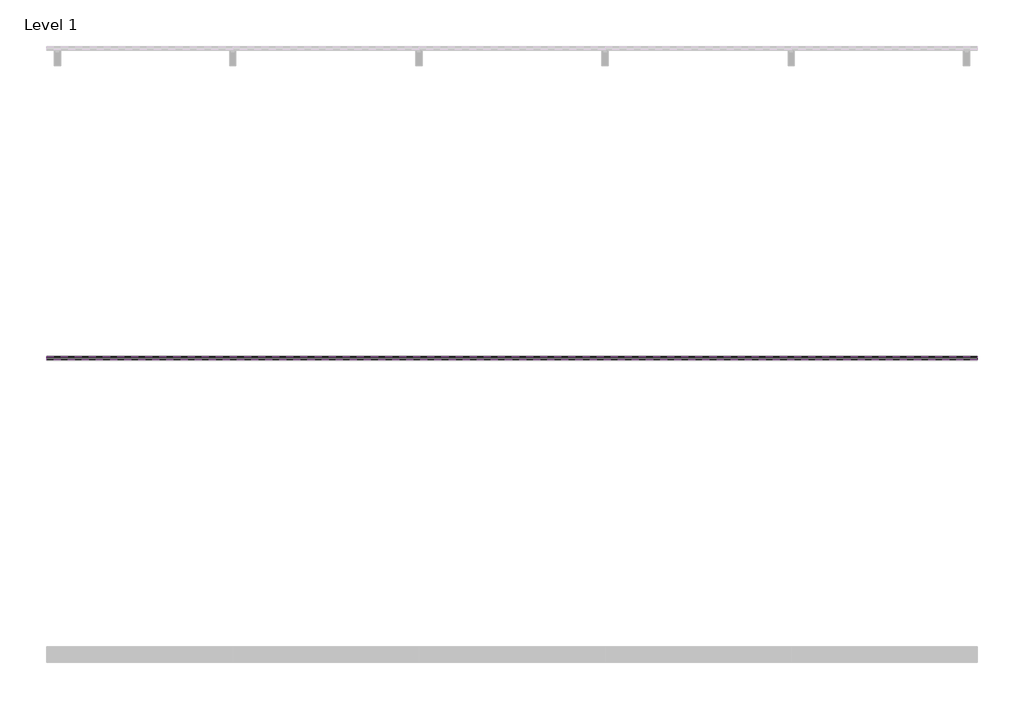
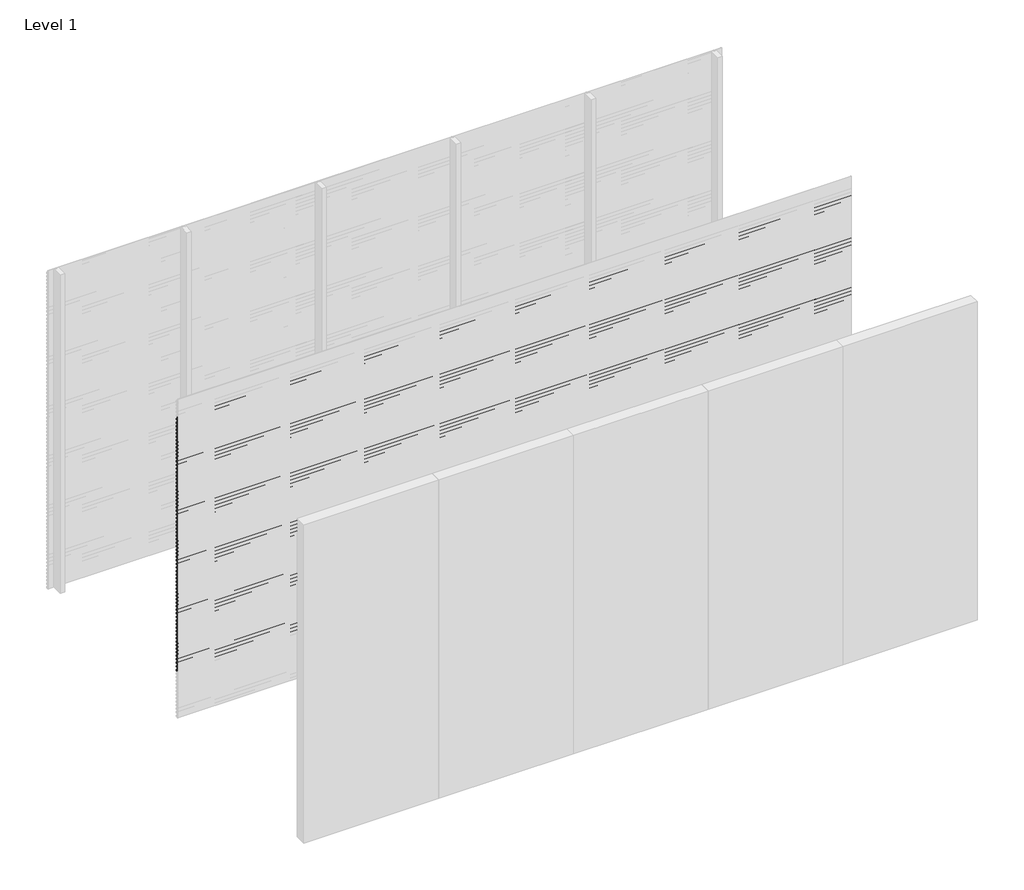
# One storey, part 26 of 77: 72 proxies.
"""IFC4 building model written with IfcOpenShell, lengths in millimetres."""

from ifc_helpers import new_model, si_unit, frame, origin, place, context, project, spatial, polyline, outline, extrude, element, save

model = new_model("IFC4")

# Units and contexts
model_context = context("Model", 3, world=origin())
ifc_project = project(units=[si_unit("LENGTHUNIT", "METRE", prefix="MILLI")], contexts=[model_context])

# Site, building, storey
site = spatial("IfcSite", under=ifc_project)
building = spatial("IfcBuilding", under=site)
storey = spatial("IfcBuildingStorey", under=building, Name="Level 1", Elevation=0.0)

# Proxies
placement = place(None, origin())
element("IfcBuildingElementProxy", 1, Name="Wall Sweeps", at=placement, inside=storey, context=model_context, shape_type="SweptSolid", body=[
    extrude(outline(polyline([(-37978.6, 2806.0359887), (-37998.0, 2817.2366691), (-37998.0, 2830.5), (-37997.0, 2830.5), (-37997.0, 2817.8191057), (-37977.6, 2806.6185105), (-37977.6, 2793.0185105), (-37978.6, 2794.5953129), (-37978.6, 2800.4032062), (-37995.9773817, 2792.3), (-37996.4, 2793.2063078), (-37978.6, 2801.5065841), (-37978.6, 2806.0359887)])), frame((0.0, 0.0, 0.0), z_axis=(1.0, 0.0, 0.0), x_axis=(0.0, 1.0, 0.0)), (0.0, 0.0, 1.0), 6000.0),
])
element("IfcBuildingElementProxy", 2, Name="Wall Sweeps", at=placement, inside=storey, context=model_context, shape_type="SweptSolid", body=[
    extrude(outline(polyline([(-37978.6, 2772.7359887), (-37998.0, 2783.9366691), (-37998.0, 2797.2), (-37997.0, 2797.2), (-37997.0, 2784.5191057), (-37977.6, 2773.3185105), (-37977.6, 2759.7185105), (-37978.6, 2761.2953129), (-37978.6, 2767.1032062), (-37995.9773817, 2759.0), (-37996.4, 2759.9063078), (-37978.6, 2768.2065841), (-37978.6, 2772.7359887)])), frame((0.0, 0.0, 0.0), z_axis=(1.0, 0.0, 0.0), x_axis=(0.0, 1.0, 0.0)), (0.0, 0.0, 1.0), 6000.0),
])
element("IfcBuildingElementProxy", 3, Name="Wall Sweeps", at=placement, inside=storey, context=model_context, shape_type="SweptSolid", body=[
    extrude(outline(polyline([(-37978.6, 2739.4359887), (-37998.0, 2750.6366691), (-37998.0, 2763.9), (-37997.0, 2763.9), (-37997.0, 2751.2191057), (-37977.6, 2740.0185105), (-37977.6, 2726.4185105), (-37978.6, 2727.9953129), (-37978.6, 2733.8032062), (-37995.9773817, 2725.7), (-37996.4, 2726.6063078), (-37978.6, 2734.9065841), (-37978.6, 2739.4359887)])), frame((0.0, 0.0, 0.0), z_axis=(1.0, 0.0, 0.0), x_axis=(0.0, 1.0, 0.0)), (0.0, 0.0, 1.0), 6000.0),
])
element("IfcBuildingElementProxy", 4, Name="Wall Sweeps", at=placement, inside=storey, context=model_context, shape_type="SweptSolid", body=[
    extrude(outline(polyline([(-37978.6, 2706.1359887), (-37998.0, 2717.3366691), (-37998.0, 2730.6), (-37997.0, 2730.6), (-37997.0, 2717.9191057), (-37977.6, 2706.7185105), (-37977.6, 2693.1185105), (-37978.6, 2694.6953129), (-37978.6, 2700.5032062), (-37995.9773817, 2692.4), (-37996.4, 2693.3063078), (-37978.6, 2701.6065841), (-37978.6, 2706.1359887)])), frame((0.0, 0.0, 0.0), z_axis=(1.0, 0.0, 0.0), x_axis=(0.0, 1.0, 0.0)), (0.0, 0.0, 1.0), 6000.0),
])
element("IfcBuildingElementProxy", 5, Name="Wall Sweeps", at=placement, inside=storey, context=model_context, shape_type="SweptSolid", body=[
    extrude(outline(polyline([(-37978.6, 2672.8359887), (-37998.0, 2684.0366691), (-37998.0, 2697.3), (-37997.0, 2697.3), (-37997.0, 2684.6191057), (-37977.6, 2673.4185105), (-37977.6, 2659.8185105), (-37978.6, 2661.3953129), (-37978.6, 2667.2032062), (-37995.9773817, 2659.1), (-37996.4, 2660.0063078), (-37978.6, 2668.3065841), (-37978.6, 2672.8359887)])), frame((0.0, 0.0, 0.0), z_axis=(1.0, 0.0, 0.0), x_axis=(0.0, 1.0, 0.0)), (0.0, 0.0, 1.0), 6000.0),
])
element("IfcBuildingElementProxy", 6, Name="Wall Sweeps", at=placement, inside=storey, context=model_context, shape_type="SweptSolid", body=[
    extrude(outline(polyline([(-37978.6, 2639.5359887), (-37998.0, 2650.7366691), (-37998.0, 2664.0), (-37997.0, 2664.0), (-37997.0, 2651.3191057), (-37977.6, 2640.1185105), (-37977.6, 2626.5185105), (-37978.6, 2628.0953129), (-37978.6, 2633.9032062), (-37995.9773817, 2625.8), (-37996.4, 2626.7063078), (-37978.6, 2635.0065841), (-37978.6, 2639.5359887)])), frame((0.0, 0.0, 0.0), z_axis=(1.0, 0.0, 0.0), x_axis=(0.0, 1.0, 0.0)), (0.0, 0.0, 1.0), 6000.0),
])
element("IfcBuildingElementProxy", 7, Name="Wall Sweeps", at=placement, inside=storey, context=model_context, shape_type="SweptSolid", body=[
    extrude(outline(polyline([(-37978.6, 2606.2359887), (-37998.0, 2617.4366691), (-37998.0, 2630.7), (-37997.0, 2630.7), (-37997.0, 2618.0191057), (-37977.6, 2606.8185105), (-37977.6, 2593.2185105), (-37978.6, 2594.7953129), (-37978.6, 2600.6032062), (-37995.9773817, 2592.5), (-37996.4, 2593.4063078), (-37978.6, 2601.7065841), (-37978.6, 2606.2359887)])), frame((0.0, 0.0, 0.0), z_axis=(1.0, 0.0, 0.0), x_axis=(0.0, 1.0, 0.0)), (0.0, 0.0, 1.0), 6000.0),
])
element("IfcBuildingElementProxy", 8, Name="Wall Sweeps", at=placement, inside=storey, context=model_context, shape_type="SweptSolid", body=[
    extrude(outline(polyline([(-37978.6, 2572.9359887), (-37998.0, 2584.1366691), (-37998.0, 2597.4), (-37997.0, 2597.4), (-37997.0, 2584.7191057), (-37977.6, 2573.5185105), (-37977.6, 2559.9185105), (-37978.6, 2561.4953129), (-37978.6, 2567.3032062), (-37995.9773817, 2559.2), (-37996.4, 2560.1063078), (-37978.6, 2568.4065841), (-37978.6, 2572.9359887)])), frame((0.0, 0.0, 0.0), z_axis=(1.0, 0.0, 0.0), x_axis=(0.0, 1.0, 0.0)), (0.0, 0.0, 1.0), 6000.0),
])
element("IfcBuildingElementProxy", 9, Name="Wall Sweeps", at=placement, inside=storey, context=model_context, shape_type="SweptSolid", body=[
    extrude(outline(polyline([(-37978.6, 2539.6359887), (-37998.0, 2550.8366691), (-37998.0, 2564.1), (-37997.0, 2564.1), (-37997.0, 2551.4191057), (-37977.6, 2540.2185105), (-37977.6, 2526.6185105), (-37978.6, 2528.1953129), (-37978.6, 2534.0032062), (-37995.9773817, 2525.9), (-37996.4, 2526.8063078), (-37978.6, 2535.1065841), (-37978.6, 2539.6359887)])), frame((0.0, 0.0, 0.0), z_axis=(1.0, 0.0, 0.0), x_axis=(0.0, 1.0, 0.0)), (0.0, 0.0, 1.0), 6000.0),
])
element("IfcBuildingElementProxy", 10, Name="Wall Sweeps", at=placement, inside=storey, context=model_context, shape_type="SweptSolid", body=[
    extrude(outline(polyline([(-37978.6, 2506.3359887), (-37998.0, 2517.5366691), (-37998.0, 2530.8), (-37997.0, 2530.8), (-37997.0, 2518.1191057), (-37977.6, 2506.9185105), (-37977.6, 2493.3185105), (-37978.6, 2494.8953129), (-37978.6, 2500.7032062), (-37995.9773817, 2492.6), (-37996.4, 2493.5063078), (-37978.6, 2501.8065841), (-37978.6, 2506.3359887)])), frame((0.0, 0.0, 0.0), z_axis=(1.0, 0.0, 0.0), x_axis=(0.0, 1.0, 0.0)), (0.0, 0.0, 1.0), 6000.0),
])
element("IfcBuildingElementProxy", 11, Name="Wall Sweeps", at=placement, inside=storey, context=model_context, shape_type="SweptSolid", body=[
    extrude(outline(polyline([(-37978.6, 2473.0359887), (-37998.0, 2484.2366691), (-37998.0, 2497.5), (-37997.0, 2497.5), (-37997.0, 2484.8191057), (-37977.6, 2473.6185105), (-37977.6, 2460.0185105), (-37978.6, 2461.5953129), (-37978.6, 2467.4032062), (-37995.9773817, 2459.3), (-37996.4, 2460.2063078), (-37978.6, 2468.5065841), (-37978.6, 2473.0359887)])), frame((0.0, 0.0, 0.0), z_axis=(1.0, 0.0, 0.0), x_axis=(0.0, 1.0, 0.0)), (0.0, 0.0, 1.0), 6000.0),
])
element("IfcBuildingElementProxy", 12, Name="Wall Sweeps", at=placement, inside=storey, context=model_context, shape_type="SweptSolid", body=[
    extrude(outline(polyline([(-37978.6, 2439.7359887), (-37998.0, 2450.9366691), (-37998.0, 2464.2), (-37997.0, 2464.2), (-37997.0, 2451.5191057), (-37977.6, 2440.3185105), (-37977.6, 2426.7185105), (-37978.6, 2428.2953129), (-37978.6, 2434.1032062), (-37995.9773817, 2426.0), (-37996.4, 2426.9063078), (-37978.6, 2435.2065841), (-37978.6, 2439.7359887)])), frame((0.0, 0.0, 0.0), z_axis=(1.0, 0.0, 0.0), x_axis=(0.0, 1.0, 0.0)), (0.0, 0.0, 1.0), 6000.0),
])
element("IfcBuildingElementProxy", 13, Name="Wall Sweeps", at=placement, inside=storey, context=model_context, shape_type="SweptSolid", body=[
    extrude(outline(polyline([(-37978.6, 2406.4359887), (-37998.0, 2417.6366691), (-37998.0, 2430.9), (-37997.0, 2430.9), (-37997.0, 2418.2191057), (-37977.6, 2407.0185105), (-37977.6, 2393.4185105), (-37978.6, 2394.9953129), (-37978.6, 2400.8032062), (-37995.9773817, 2392.7), (-37996.4, 2393.6063078), (-37978.6, 2401.9065841), (-37978.6, 2406.4359887)])), frame((0.0, 0.0, 0.0), z_axis=(1.0, 0.0, 0.0), x_axis=(0.0, 1.0, 0.0)), (0.0, 0.0, 1.0), 6000.0),
])
element("IfcBuildingElementProxy", 14, Name="Wall Sweeps", at=placement, inside=storey, context=model_context, shape_type="SweptSolid", body=[
    extrude(outline(polyline([(-37978.6, 2373.1359887), (-37998.0, 2384.3366691), (-37998.0, 2397.6), (-37997.0, 2397.6), (-37997.0, 2384.9191057), (-37977.6, 2373.7185105), (-37977.6, 2360.1185105), (-37978.6, 2361.6953129), (-37978.6, 2367.5032062), (-37995.9773817, 2359.4), (-37996.4, 2360.3063078), (-37978.6, 2368.6065841), (-37978.6, 2373.1359887)])), frame((0.0, 0.0, 0.0), z_axis=(1.0, 0.0, 0.0), x_axis=(0.0, 1.0, 0.0)), (0.0, 0.0, 1.0), 6000.0),
])
element("IfcBuildingElementProxy", 15, Name="Wall Sweeps", at=placement, inside=storey, context=model_context, shape_type="SweptSolid", body=[
    extrude(outline(polyline([(-37978.6, 2339.8359887), (-37998.0, 2351.0366691), (-37998.0, 2364.3), (-37997.0, 2364.3), (-37997.0, 2351.6191057), (-37977.6, 2340.4185105), (-37977.6, 2326.8185105), (-37978.6, 2328.3953129), (-37978.6, 2334.2032062), (-37995.9773817, 2326.1), (-37996.4, 2327.0063078), (-37978.6, 2335.3065841), (-37978.6, 2339.8359887)])), frame((0.0, 0.0, 0.0), z_axis=(1.0, 0.0, 0.0), x_axis=(0.0, 1.0, 0.0)), (0.0, 0.0, 1.0), 6000.0),
])
element("IfcBuildingElementProxy", 16, Name="Wall Sweeps", at=placement, inside=storey, context=model_context, shape_type="SweptSolid", body=[
    extrude(outline(polyline([(-37978.6, 2306.5359887), (-37998.0, 2317.7366691), (-37998.0, 2331.0), (-37997.0, 2331.0), (-37997.0, 2318.3191057), (-37977.6, 2307.1185105), (-37977.6, 2293.5185105), (-37978.6, 2295.0953129), (-37978.6, 2300.9032062), (-37995.9773817, 2292.8), (-37996.4, 2293.7063078), (-37978.6, 2302.0065841), (-37978.6, 2306.5359887)])), frame((0.0, 0.0, 0.0), z_axis=(1.0, 0.0, 0.0), x_axis=(0.0, 1.0, 0.0)), (0.0, 0.0, 1.0), 6000.0),
])
element("IfcBuildingElementProxy", 17, Name="Wall Sweeps", at=placement, inside=storey, context=model_context, shape_type="SweptSolid", body=[
    extrude(outline(polyline([(-37978.6, 2273.2359887), (-37998.0, 2284.4366691), (-37998.0, 2297.7), (-37997.0, 2297.7), (-37997.0, 2285.0191057), (-37977.6, 2273.8185105), (-37977.6, 2260.2185105), (-37978.6, 2261.7953129), (-37978.6, 2267.6032062), (-37995.9773817, 2259.5), (-37996.4, 2260.4063078), (-37978.6, 2268.7065841), (-37978.6, 2273.2359887)])), frame((0.0, 0.0, 0.0), z_axis=(1.0, 0.0, 0.0), x_axis=(0.0, 1.0, 0.0)), (0.0, 0.0, 1.0), 6000.0),
])
element("IfcBuildingElementProxy", 18, Name="Wall Sweeps", at=placement, inside=storey, context=model_context, shape_type="SweptSolid", body=[
    extrude(outline(polyline([(-37978.6, 2239.9359887), (-37998.0, 2251.1366691), (-37998.0, 2264.4), (-37997.0, 2264.4), (-37997.0, 2251.7191057), (-37977.6, 2240.5185105), (-37977.6, 2226.9185105), (-37978.6, 2228.4953129), (-37978.6, 2234.3032062), (-37995.9773817, 2226.2), (-37996.4, 2227.1063078), (-37978.6, 2235.4065841), (-37978.6, 2239.9359887)])), frame((0.0, 0.0, 0.0), z_axis=(1.0, 0.0, 0.0), x_axis=(0.0, 1.0, 0.0)), (0.0, 0.0, 1.0), 6000.0),
])
element("IfcBuildingElementProxy", 19, Name="Wall Sweeps", at=placement, inside=storey, context=model_context, shape_type="SweptSolid", body=[
    extrude(outline(polyline([(-37978.6, 2206.6359887), (-37998.0, 2217.8366691), (-37998.0, 2231.1), (-37997.0, 2231.1), (-37997.0, 2218.4191057), (-37977.6, 2207.2185105), (-37977.6, 2193.6185105), (-37978.6, 2195.1953129), (-37978.6, 2201.0032062), (-37995.9773817, 2192.9), (-37996.4, 2193.8063078), (-37978.6, 2202.1065841), (-37978.6, 2206.6359887)])), frame((0.0, 0.0, 0.0), z_axis=(1.0, 0.0, 0.0), x_axis=(0.0, 1.0, 0.0)), (0.0, 0.0, 1.0), 6000.0),
])
element("IfcBuildingElementProxy", 20, Name="Wall Sweeps", at=placement, inside=storey, context=model_context, shape_type="SweptSolid", body=[
    extrude(outline(polyline([(-37978.6, 2173.3359887), (-37998.0, 2184.5366691), (-37998.0, 2197.8), (-37997.0, 2197.8), (-37997.0, 2185.1191057), (-37977.6, 2173.9185105), (-37977.6, 2160.3185105), (-37978.6, 2161.8953129), (-37978.6, 2167.7032062), (-37995.9773817, 2159.6), (-37996.4, 2160.5063078), (-37978.6, 2168.8065841), (-37978.6, 2173.3359887)])), frame((0.0, 0.0, 0.0), z_axis=(1.0, 0.0, 0.0), x_axis=(0.0, 1.0, 0.0)), (0.0, 0.0, 1.0), 6000.0),
])
element("IfcBuildingElementProxy", 21, Name="Wall Sweeps", at=placement, inside=storey, context=model_context, shape_type="SweptSolid", body=[
    extrude(outline(polyline([(-37978.6, 2140.0359887), (-37998.0, 2151.2366691), (-37998.0, 2164.5), (-37997.0, 2164.5), (-37997.0, 2151.8191057), (-37977.6, 2140.6185105), (-37977.6, 2127.0185105), (-37978.6, 2128.5953129), (-37978.6, 2134.4032062), (-37995.9773817, 2126.3), (-37996.4, 2127.2063078), (-37978.6, 2135.5065841), (-37978.6, 2140.0359887)])), frame((0.0, 0.0, 0.0), z_axis=(1.0, 0.0, 0.0), x_axis=(0.0, 1.0, 0.0)), (0.0, 0.0, 1.0), 6000.0),
])
element("IfcBuildingElementProxy", 22, Name="Wall Sweeps", at=placement, inside=storey, context=model_context, shape_type="SweptSolid", body=[
    extrude(outline(polyline([(-37978.6, 2106.7359887), (-37998.0, 2117.9366691), (-37998.0, 2131.2), (-37997.0, 2131.2), (-37997.0, 2118.5191057), (-37977.6, 2107.3185105), (-37977.6, 2093.7185105), (-37978.6, 2095.2953129), (-37978.6, 2101.1032062), (-37995.9773817, 2093.0), (-37996.4, 2093.9063078), (-37978.6, 2102.2065841), (-37978.6, 2106.7359887)])), frame((0.0, 0.0, 0.0), z_axis=(1.0, 0.0, 0.0), x_axis=(0.0, 1.0, 0.0)), (0.0, 0.0, 1.0), 6000.0),
])
element("IfcBuildingElementProxy", 23, Name="Wall Sweeps", at=placement, inside=storey, context=model_context, shape_type="SweptSolid", body=[
    extrude(outline(polyline([(-37978.6, 2073.4359887), (-37998.0, 2084.6366691), (-37998.0, 2097.9), (-37997.0, 2097.9), (-37997.0, 2085.2191057), (-37977.6, 2074.0185105), (-37977.6, 2060.4185105), (-37978.6, 2061.9953129), (-37978.6, 2067.8032062), (-37995.9773817, 2059.7), (-37996.4, 2060.6063078), (-37978.6, 2068.9065841), (-37978.6, 2073.4359887)])), frame((0.0, 0.0, 0.0), z_axis=(1.0, 0.0, 0.0), x_axis=(0.0, 1.0, 0.0)), (0.0, 0.0, 1.0), 6000.0),
])
element("IfcBuildingElementProxy", 24, Name="Wall Sweeps", at=placement, inside=storey, context=model_context, shape_type="SweptSolid", body=[
    extrude(outline(polyline([(-37978.6, 2040.1359887), (-37998.0, 2051.3366691), (-37998.0, 2064.6), (-37997.0, 2064.6), (-37997.0, 2051.9191057), (-37977.6, 2040.7185105), (-37977.6, 2027.1185105), (-37978.6, 2028.6953129), (-37978.6, 2034.5032062), (-37995.9773817, 2026.4), (-37996.4, 2027.3063078), (-37978.6, 2035.6065841), (-37978.6, 2040.1359887)])), frame((0.0, 0.0, 0.0), z_axis=(1.0, 0.0, 0.0), x_axis=(0.0, 1.0, 0.0)), (0.0, 0.0, 1.0), 6000.0),
])
element("IfcBuildingElementProxy", 25, Name="Wall Sweeps", at=placement, inside=storey, context=model_context, shape_type="SweptSolid", body=[
    extrude(outline(polyline([(-37978.6, 2006.8359887), (-37998.0, 2018.0366691), (-37998.0, 2031.3), (-37997.0, 2031.3), (-37997.0, 2018.6191057), (-37977.6, 2007.4185105), (-37977.6, 1993.8185105), (-37978.6, 1995.3953129), (-37978.6, 2001.2032062), (-37995.9773817, 1993.1), (-37996.4, 1994.0063078), (-37978.6, 2002.3065841), (-37978.6, 2006.8359887)])), frame((0.0, 0.0, 0.0), z_axis=(1.0, 0.0, 0.0), x_axis=(0.0, 1.0, 0.0)), (0.0, 0.0, 1.0), 6000.0),
])
element("IfcBuildingElementProxy", 26, Name="Wall Sweeps", at=placement, inside=storey, context=model_context, shape_type="SweptSolid", body=[
    extrude(outline(polyline([(-37978.6, 1973.5359887), (-37998.0, 1984.7366691), (-37998.0, 1998.0), (-37997.0, 1998.0), (-37997.0, 1985.3191057), (-37977.6, 1974.1185105), (-37977.6, 1960.5185105), (-37978.6, 1962.0953129), (-37978.6, 1967.9032062), (-37995.9773817, 1959.8), (-37996.4, 1960.7063078), (-37978.6, 1969.0065841), (-37978.6, 1973.5359887)])), frame((0.0, 0.0, 0.0), z_axis=(1.0, 0.0, 0.0), x_axis=(0.0, 1.0, 0.0)), (0.0, 0.0, 1.0), 6000.0),
])
element("IfcBuildingElementProxy", 27, Name="Wall Sweeps", at=placement, inside=storey, context=model_context, shape_type="SweptSolid", body=[
    extrude(outline(polyline([(-37978.6, 1940.2359887), (-37998.0, 1951.4366691), (-37998.0, 1964.7), (-37997.0, 1964.7), (-37997.0, 1952.0191057), (-37977.6, 1940.8185105), (-37977.6, 1927.2185105), (-37978.6, 1928.7953129), (-37978.6, 1934.6032062), (-37995.9773817, 1926.5), (-37996.4, 1927.4063078), (-37978.6, 1935.7065841), (-37978.6, 1940.2359887)])), frame((0.0, 0.0, 0.0), z_axis=(1.0, 0.0, 0.0), x_axis=(0.0, 1.0, 0.0)), (0.0, 0.0, 1.0), 6000.0),
])
element("IfcBuildingElementProxy", 28, Name="Wall Sweeps", at=placement, inside=storey, context=model_context, shape_type="SweptSolid", body=[
    extrude(outline(polyline([(-37978.6, 1906.9359887), (-37998.0, 1918.1366691), (-37998.0, 1931.4), (-37997.0, 1931.4), (-37997.0, 1918.7191057), (-37977.6, 1907.5185105), (-37977.6, 1893.9185105), (-37978.6, 1895.4953129), (-37978.6, 1901.3032062), (-37995.9773817, 1893.2), (-37996.4, 1894.1063078), (-37978.6, 1902.4065841), (-37978.6, 1906.9359887)])), frame((0.0, 0.0, 0.0), z_axis=(1.0, 0.0, 0.0), x_axis=(0.0, 1.0, 0.0)), (0.0, 0.0, 1.0), 6000.0),
])
element("IfcBuildingElementProxy", 29, Name="Wall Sweeps", at=placement, inside=storey, context=model_context, shape_type="SweptSolid", body=[
    extrude(outline(polyline([(-37978.6, 1873.6359887), (-37998.0, 1884.8366691), (-37998.0, 1898.1), (-37997.0, 1898.1), (-37997.0, 1885.4191057), (-37977.6, 1874.2185105), (-37977.6, 1860.6185105), (-37978.6, 1862.1953129), (-37978.6, 1868.0032062), (-37995.9773817, 1859.9), (-37996.4, 1860.8063078), (-37978.6, 1869.1065841), (-37978.6, 1873.6359887)])), frame((0.0, 0.0, 0.0), z_axis=(1.0, 0.0, 0.0), x_axis=(0.0, 1.0, 0.0)), (0.0, 0.0, 1.0), 6000.0),
])
element("IfcBuildingElementProxy", 30, Name="Wall Sweeps", at=placement, inside=storey, context=model_context, shape_type="SweptSolid", body=[
    extrude(outline(polyline([(-37978.6, 1840.3359887), (-37998.0, 1851.5366691), (-37998.0, 1864.8), (-37997.0, 1864.8), (-37997.0, 1852.1191057), (-37977.6, 1840.9185105), (-37977.6, 1827.3185105), (-37978.6, 1828.8953129), (-37978.6, 1834.7032062), (-37995.9773817, 1826.6), (-37996.4, 1827.5063078), (-37978.6, 1835.8065841), (-37978.6, 1840.3359887)])), frame((0.0, 0.0, 0.0), z_axis=(1.0, 0.0, 0.0), x_axis=(0.0, 1.0, 0.0)), (0.0, 0.0, 1.0), 6000.0),
])
element("IfcBuildingElementProxy", 31, Name="Wall Sweeps", at=placement, inside=storey, context=model_context, shape_type="SweptSolid", body=[
    extrude(outline(polyline([(-37978.6, 1807.0359887), (-37998.0, 1818.2366691), (-37998.0, 1831.5), (-37997.0, 1831.5), (-37997.0, 1818.8191057), (-37977.6, 1807.6185105), (-37977.6, 1794.0185105), (-37978.6, 1795.5953129), (-37978.6, 1801.4032062), (-37995.9773817, 1793.3), (-37996.4, 1794.2063078), (-37978.6, 1802.5065841), (-37978.6, 1807.0359887)])), frame((0.0, 0.0, 0.0), z_axis=(1.0, 0.0, 0.0), x_axis=(0.0, 1.0, 0.0)), (0.0, 0.0, 1.0), 6000.0),
])
element("IfcBuildingElementProxy", 32, Name="Wall Sweeps", at=placement, inside=storey, context=model_context, shape_type="SweptSolid", body=[
    extrude(outline(polyline([(-37978.6, 1773.7359887), (-37998.0, 1784.9366691), (-37998.0, 1798.2), (-37997.0, 1798.2), (-37997.0, 1785.5191057), (-37977.6, 1774.3185105), (-37977.6, 1760.7185105), (-37978.6, 1762.2953129), (-37978.6, 1768.1032062), (-37995.9773817, 1760.0), (-37996.4, 1760.9063078), (-37978.6, 1769.2065841), (-37978.6, 1773.7359887)])), frame((0.0, 0.0, 0.0), z_axis=(1.0, 0.0, 0.0), x_axis=(0.0, 1.0, 0.0)), (0.0, 0.0, 1.0), 6000.0),
])
element("IfcBuildingElementProxy", 33, Name="Wall Sweeps", at=placement, inside=storey, context=model_context, shape_type="SweptSolid", body=[
    extrude(outline(polyline([(-37978.6, 1740.4359887), (-37998.0, 1751.6366691), (-37998.0, 1764.9), (-37997.0, 1764.9), (-37997.0, 1752.2191057), (-37977.6, 1741.0185105), (-37977.6, 1727.4185105), (-37978.6, 1728.9953129), (-37978.6, 1734.8032062), (-37995.9773817, 1726.7), (-37996.4, 1727.6063078), (-37978.6, 1735.9065841), (-37978.6, 1740.4359887)])), frame((0.0, 0.0, 0.0), z_axis=(1.0, 0.0, 0.0), x_axis=(0.0, 1.0, 0.0)), (0.0, 0.0, 1.0), 6000.0),
])
element("IfcBuildingElementProxy", 34, Name="Wall Sweeps", at=placement, inside=storey, context=model_context, shape_type="SweptSolid", body=[
    extrude(outline(polyline([(-37978.6, 1707.1359887), (-37998.0, 1718.3366691), (-37998.0, 1731.6), (-37997.0, 1731.6), (-37997.0, 1718.9191057), (-37977.6, 1707.7185105), (-37977.6, 1694.1185105), (-37978.6, 1695.6953129), (-37978.6, 1701.5032062), (-37995.9773817, 1693.4), (-37996.4, 1694.3063078), (-37978.6, 1702.6065841), (-37978.6, 1707.1359887)])), frame((0.0, 0.0, 0.0), z_axis=(1.0, 0.0, 0.0), x_axis=(0.0, 1.0, 0.0)), (0.0, 0.0, 1.0), 6000.0),
])
element("IfcBuildingElementProxy", 35, Name="Wall Sweeps", at=placement, inside=storey, context=model_context, shape_type="SweptSolid", body=[
    extrude(outline(polyline([(-37978.6, 1673.8359887), (-37998.0, 1685.0366691), (-37998.0, 1698.3), (-37997.0, 1698.3), (-37997.0, 1685.6191057), (-37977.6, 1674.4185105), (-37977.6, 1660.8185105), (-37978.6, 1662.3953129), (-37978.6, 1668.2032062), (-37995.9773817, 1660.1), (-37996.4, 1661.0063078), (-37978.6, 1669.3065841), (-37978.6, 1673.8359887)])), frame((0.0, 0.0, 0.0), z_axis=(1.0, 0.0, 0.0), x_axis=(0.0, 1.0, 0.0)), (0.0, 0.0, 1.0), 6000.0),
])
element("IfcBuildingElementProxy", 36, Name="Wall Sweeps", at=placement, inside=storey, context=model_context, shape_type="SweptSolid", body=[
    extrude(outline(polyline([(-37978.6, 1640.5359887), (-37998.0, 1651.7366691), (-37998.0, 1665.0), (-37997.0, 1665.0), (-37997.0, 1652.3191057), (-37977.6, 1641.1185105), (-37977.6, 1627.5185105), (-37978.6, 1629.0953129), (-37978.6, 1634.9032062), (-37995.9773817, 1626.8), (-37996.4, 1627.7063078), (-37978.6, 1636.0065841), (-37978.6, 1640.5359887)])), frame((0.0, 0.0, 0.0), z_axis=(1.0, 0.0, 0.0), x_axis=(0.0, 1.0, 0.0)), (0.0, 0.0, 1.0), 6000.0),
])
element("IfcBuildingElementProxy", 37, Name="Wall Sweeps", at=placement, inside=storey, context=model_context, shape_type="SweptSolid", body=[
    extrude(outline(polyline([(-37978.6, 1607.2359887), (-37998.0, 1618.4366691), (-37998.0, 1631.7), (-37997.0, 1631.7), (-37997.0, 1619.0191057), (-37977.6, 1607.8185105), (-37977.6, 1594.2185105), (-37978.6, 1595.7953129), (-37978.6, 1601.6032062), (-37995.9773817, 1593.5), (-37996.4, 1594.4063078), (-37978.6, 1602.7065841), (-37978.6, 1607.2359887)])), frame((0.0, 0.0, 0.0), z_axis=(1.0, 0.0, 0.0), x_axis=(0.0, 1.0, 0.0)), (0.0, 0.0, 1.0), 6000.0),
])
element("IfcBuildingElementProxy", 38, Name="Wall Sweeps", at=placement, inside=storey, context=model_context, shape_type="SweptSolid", body=[
    extrude(outline(polyline([(-37978.6, 1573.9359887), (-37998.0, 1585.1366691), (-37998.0, 1598.4), (-37997.0, 1598.4), (-37997.0, 1585.7191057), (-37977.6, 1574.5185105), (-37977.6, 1560.9185105), (-37978.6, 1562.4953129), (-37978.6, 1568.3032062), (-37995.9773817, 1560.2), (-37996.4, 1561.1063078), (-37978.6, 1569.4065841), (-37978.6, 1573.9359887)])), frame((0.0, 0.0, 0.0), z_axis=(1.0, 0.0, 0.0), x_axis=(0.0, 1.0, 0.0)), (0.0, 0.0, 1.0), 6000.0),
])
element("IfcBuildingElementProxy", 39, Name="Wall Sweeps", at=placement, inside=storey, context=model_context, shape_type="SweptSolid", body=[
    extrude(outline(polyline([(-37978.6, 1540.6359887), (-37998.0, 1551.8366691), (-37998.0, 1565.1), (-37997.0, 1565.1), (-37997.0, 1552.4191057), (-37977.6, 1541.2185105), (-37977.6, 1527.6185105), (-37978.6, 1529.1953129), (-37978.6, 1535.0032062), (-37995.9773817, 1526.9), (-37996.4, 1527.8063078), (-37978.6, 1536.1065841), (-37978.6, 1540.6359887)])), frame((0.0, 0.0, 0.0), z_axis=(1.0, 0.0, 0.0), x_axis=(0.0, 1.0, 0.0)), (0.0, 0.0, 1.0), 6000.0),
])
element("IfcBuildingElementProxy", 40, Name="Wall Sweeps", at=placement, inside=storey, context=model_context, shape_type="SweptSolid", body=[
    extrude(outline(polyline([(-37978.6, 1507.3359887), (-37998.0, 1518.5366691), (-37998.0, 1531.8), (-37997.0, 1531.8), (-37997.0, 1519.1191057), (-37977.6, 1507.9185105), (-37977.6, 1494.3185105), (-37978.6, 1495.8953129), (-37978.6, 1501.7032062), (-37995.9773817, 1493.6), (-37996.4, 1494.5063078), (-37978.6, 1502.8065841), (-37978.6, 1507.3359887)])), frame((0.0, 0.0, 0.0), z_axis=(1.0, 0.0, 0.0), x_axis=(0.0, 1.0, 0.0)), (0.0, 0.0, 1.0), 6000.0),
])
element("IfcBuildingElementProxy", 41, Name="Wall Sweeps", at=placement, inside=storey, context=model_context, shape_type="SweptSolid", body=[
    extrude(outline(polyline([(-37978.6, 1474.0359887), (-37998.0, 1485.2366691), (-37998.0, 1498.5), (-37997.0, 1498.5), (-37997.0, 1485.8191057), (-37977.6, 1474.6185105), (-37977.6, 1461.0185105), (-37978.6, 1462.5953129), (-37978.6, 1468.4032062), (-37995.9773817, 1460.3), (-37996.4, 1461.2063078), (-37978.6, 1469.5065841), (-37978.6, 1474.0359887)])), frame((0.0, 0.0, 0.0), z_axis=(1.0, 0.0, 0.0), x_axis=(0.0, 1.0, 0.0)), (0.0, 0.0, 1.0), 6000.0),
])
element("IfcBuildingElementProxy", 42, Name="Wall Sweeps", at=placement, inside=storey, context=model_context, shape_type="SweptSolid", body=[
    extrude(outline(polyline([(-37978.6, 1440.7359887), (-37998.0, 1451.9366691), (-37998.0, 1465.2), (-37997.0, 1465.2), (-37997.0, 1452.5191057), (-37977.6, 1441.3185105), (-37977.6, 1427.7185105), (-37978.6, 1429.2953129), (-37978.6, 1435.1032062), (-37995.9773817, 1427.0), (-37996.4, 1427.9063078), (-37978.6, 1436.2065841), (-37978.6, 1440.7359887)])), frame((0.0, 0.0, 0.0), z_axis=(1.0, 0.0, 0.0), x_axis=(0.0, 1.0, 0.0)), (0.0, 0.0, 1.0), 6000.0),
])
element("IfcBuildingElementProxy", 43, Name="Wall Sweeps", at=placement, inside=storey, context=model_context, shape_type="SweptSolid", body=[
    extrude(outline(polyline([(-37978.6, 1407.4359887), (-37998.0, 1418.6366691), (-37998.0, 1431.9), (-37997.0, 1431.9), (-37997.0, 1419.2191057), (-37977.6, 1408.0185105), (-37977.6, 1394.4185105), (-37978.6, 1395.9953129), (-37978.6, 1401.8032062), (-37995.9773817, 1393.7), (-37996.4, 1394.6063078), (-37978.6, 1402.9065841), (-37978.6, 1407.4359887)])), frame((0.0, 0.0, 0.0), z_axis=(1.0, 0.0, 0.0), x_axis=(0.0, 1.0, 0.0)), (0.0, 0.0, 1.0), 6000.0),
])
element("IfcBuildingElementProxy", 44, Name="Wall Sweeps", at=placement, inside=storey, context=model_context, shape_type="SweptSolid", body=[
    extrude(outline(polyline([(-37978.6, 1374.1359887), (-37998.0, 1385.3366691), (-37998.0, 1398.6), (-37997.0, 1398.6), (-37997.0, 1385.9191057), (-37977.6, 1374.7185105), (-37977.6, 1361.1185105), (-37978.6, 1362.6953129), (-37978.6, 1368.5032062), (-37995.9773817, 1360.4), (-37996.4, 1361.3063078), (-37978.6, 1369.6065841), (-37978.6, 1374.1359887)])), frame((0.0, 0.0, 0.0), z_axis=(1.0, 0.0, 0.0), x_axis=(0.0, 1.0, 0.0)), (0.0, 0.0, 1.0), 6000.0),
])
element("IfcBuildingElementProxy", 45, Name="Wall Sweeps", at=placement, inside=storey, context=model_context, shape_type="SweptSolid", body=[
    extrude(outline(polyline([(-37978.6, 1340.8359887), (-37998.0, 1352.0366691), (-37998.0, 1365.3), (-37997.0, 1365.3), (-37997.0, 1352.6191057), (-37977.6, 1341.4185105), (-37977.6, 1327.8185105), (-37978.6, 1329.3953129), (-37978.6, 1335.2032062), (-37995.9773817, 1327.1), (-37996.4, 1328.0063078), (-37978.6, 1336.3065841), (-37978.6, 1340.8359887)])), frame((0.0, 0.0, 0.0), z_axis=(1.0, 0.0, 0.0), x_axis=(0.0, 1.0, 0.0)), (0.0, 0.0, 1.0), 6000.0),
])
element("IfcBuildingElementProxy", 46, Name="Wall Sweeps", at=placement, inside=storey, context=model_context, shape_type="SweptSolid", body=[
    extrude(outline(polyline([(-37978.6, 1307.5359887), (-37998.0, 1318.7366691), (-37998.0, 1332.0), (-37997.0, 1332.0), (-37997.0, 1319.3191057), (-37977.6, 1308.1185105), (-37977.6, 1294.5185105), (-37978.6, 1296.0953129), (-37978.6, 1301.9032062), (-37995.9773817, 1293.8), (-37996.4, 1294.7063078), (-37978.6, 1303.0065841), (-37978.6, 1307.5359887)])), frame((0.0, 0.0, 0.0), z_axis=(1.0, 0.0, 0.0), x_axis=(0.0, 1.0, 0.0)), (0.0, 0.0, 1.0), 6000.0),
])
element("IfcBuildingElementProxy", 47, Name="Wall Sweeps", at=placement, inside=storey, context=model_context, shape_type="SweptSolid", body=[
    extrude(outline(polyline([(-37978.6, 1274.2359887), (-37998.0, 1285.4366691), (-37998.0, 1298.7), (-37997.0, 1298.7), (-37997.0, 1286.0191057), (-37977.6, 1274.8185105), (-37977.6, 1261.2185105), (-37978.6, 1262.7953129), (-37978.6, 1268.6032062), (-37995.9773817, 1260.5), (-37996.4, 1261.4063078), (-37978.6, 1269.7065841), (-37978.6, 1274.2359887)])), frame((0.0, 0.0, 0.0), z_axis=(1.0, 0.0, 0.0), x_axis=(0.0, 1.0, 0.0)), (0.0, 0.0, 1.0), 6000.0),
])
element("IfcBuildingElementProxy", 48, Name="Wall Sweeps", at=placement, inside=storey, context=model_context, shape_type="SweptSolid", body=[
    extrude(outline(polyline([(-37978.6, 1240.9359887), (-37998.0, 1252.1366691), (-37998.0, 1265.4), (-37997.0, 1265.4), (-37997.0, 1252.7191057), (-37977.6, 1241.5185105), (-37977.6, 1227.9185105), (-37978.6, 1229.4953129), (-37978.6, 1235.3032062), (-37995.9773817, 1227.2), (-37996.4, 1228.1063078), (-37978.6, 1236.4065841), (-37978.6, 1240.9359887)])), frame((0.0, 0.0, 0.0), z_axis=(1.0, 0.0, 0.0), x_axis=(0.0, 1.0, 0.0)), (0.0, 0.0, 1.0), 6000.0),
])
element("IfcBuildingElementProxy", 49, Name="Wall Sweeps", at=placement, inside=storey, context=model_context, shape_type="SweptSolid", body=[
    extrude(outline(polyline([(-37978.6, 1207.6359887), (-37998.0, 1218.8366691), (-37998.0, 1232.1), (-37997.0, 1232.1), (-37997.0, 1219.4191057), (-37977.6, 1208.2185105), (-37977.6, 1194.6185105), (-37978.6, 1196.1953129), (-37978.6, 1202.0032062), (-37995.9773817, 1193.9), (-37996.4, 1194.8063078), (-37978.6, 1203.1065841), (-37978.6, 1207.6359887)])), frame((0.0, 0.0, 0.0), z_axis=(1.0, 0.0, 0.0), x_axis=(0.0, 1.0, 0.0)), (0.0, 0.0, 1.0), 6000.0),
])
element("IfcBuildingElementProxy", 50, Name="Wall Sweeps", at=placement, inside=storey, context=model_context, shape_type="SweptSolid", body=[
    extrude(outline(polyline([(-37978.6, 1174.3359887), (-37998.0, 1185.5366691), (-37998.0, 1198.8), (-37997.0, 1198.8), (-37997.0, 1186.1191057), (-37977.6, 1174.9185105), (-37977.6, 1161.3185105), (-37978.6, 1162.8953129), (-37978.6, 1168.7032062), (-37995.9773817, 1160.6), (-37996.4, 1161.5063078), (-37978.6, 1169.8065841), (-37978.6, 1174.3359887)])), frame((0.0, 0.0, 0.0), z_axis=(1.0, 0.0, 0.0), x_axis=(0.0, 1.0, 0.0)), (0.0, 0.0, 1.0), 6000.0),
])
element("IfcBuildingElementProxy", 51, Name="Wall Sweeps", at=placement, inside=storey, context=model_context, shape_type="SweptSolid", body=[
    extrude(outline(polyline([(-37978.6, 1141.0359887), (-37998.0, 1152.2366691), (-37998.0, 1165.5), (-37997.0, 1165.5), (-37997.0, 1152.8191057), (-37977.6, 1141.6185105), (-37977.6, 1128.0185105), (-37978.6, 1129.5953129), (-37978.6, 1135.4032062), (-37995.9773817, 1127.3), (-37996.4, 1128.2063078), (-37978.6, 1136.5065841), (-37978.6, 1141.0359887)])), frame((0.0, 0.0, 0.0), z_axis=(1.0, 0.0, 0.0), x_axis=(0.0, 1.0, 0.0)), (0.0, 0.0, 1.0), 6000.0),
])
element("IfcBuildingElementProxy", 52, Name="Wall Sweeps", at=placement, inside=storey, context=model_context, shape_type="SweptSolid", body=[
    extrude(outline(polyline([(-37978.6, 1107.7359887), (-37998.0, 1118.9366691), (-37998.0, 1132.2), (-37997.0, 1132.2), (-37997.0, 1119.5191057), (-37977.6, 1108.3185105), (-37977.6, 1094.7185105), (-37978.6, 1096.2953129), (-37978.6, 1102.1032062), (-37995.9773817, 1094.0), (-37996.4, 1094.9063078), (-37978.6, 1103.2065841), (-37978.6, 1107.7359887)])), frame((0.0, 0.0, 0.0), z_axis=(1.0, 0.0, 0.0), x_axis=(0.0, 1.0, 0.0)), (0.0, 0.0, 1.0), 6000.0),
])
element("IfcBuildingElementProxy", 53, Name="Wall Sweeps", at=placement, inside=storey, context=model_context, shape_type="SweptSolid", body=[
    extrude(outline(polyline([(-37978.6, 1074.4359887), (-37998.0, 1085.6366691), (-37998.0, 1098.9), (-37997.0, 1098.9), (-37997.0, 1086.2191057), (-37977.6, 1075.0185105), (-37977.6, 1061.4185105), (-37978.6, 1062.9953129), (-37978.6, 1068.8032062), (-37995.9773817, 1060.7), (-37996.4, 1061.6063078), (-37978.6, 1069.9065841), (-37978.6, 1074.4359887)])), frame((0.0, 0.0, 0.0), z_axis=(1.0, 0.0, 0.0), x_axis=(0.0, 1.0, 0.0)), (0.0, 0.0, 1.0), 6000.0),
])
element("IfcBuildingElementProxy", 54, Name="Wall Sweeps", at=placement, inside=storey, context=model_context, shape_type="SweptSolid", body=[
    extrude(outline(polyline([(-37978.6, 1041.1359887), (-37998.0, 1052.3366691), (-37998.0, 1065.6), (-37997.0, 1065.6), (-37997.0, 1052.9191057), (-37977.6, 1041.7185105), (-37977.6, 1028.1185105), (-37978.6, 1029.6953129), (-37978.6, 1035.5032062), (-37995.9773817, 1027.4), (-37996.4, 1028.3063078), (-37978.6, 1036.6065841), (-37978.6, 1041.1359887)])), frame((0.0, 0.0, 0.0), z_axis=(1.0, 0.0, 0.0), x_axis=(0.0, 1.0, 0.0)), (0.0, 0.0, 1.0), 6000.0),
])
element("IfcBuildingElementProxy", 55, Name="Wall Sweeps", at=placement, inside=storey, context=model_context, shape_type="SweptSolid", body=[
    extrude(outline(polyline([(-37978.6, 1007.8359887), (-37998.0, 1019.0366691), (-37998.0, 1032.3), (-37997.0, 1032.3), (-37997.0, 1019.6191057), (-37977.6, 1008.4185105), (-37977.6, 994.8185105), (-37978.6, 996.3953129), (-37978.6, 1002.2032062), (-37995.9773817, 994.1), (-37996.4, 995.0063078), (-37978.6, 1003.3065841), (-37978.6, 1007.8359887)])), frame((0.0, 0.0, 0.0), z_axis=(1.0, 0.0, 0.0), x_axis=(0.0, 1.0, 0.0)), (0.0, 0.0, 1.0), 6000.0),
])
element("IfcBuildingElementProxy", 56, Name="Wall Sweeps", at=placement, inside=storey, context=model_context, shape_type="SweptSolid", body=[
    extrude(outline(polyline([(-37978.6, 974.5359887), (-37998.0, 985.7366691), (-37998.0, 999.0), (-37997.0, 999.0), (-37997.0, 986.3191057), (-37977.6, 975.1185105), (-37977.6, 961.5185105), (-37978.6, 963.0953129), (-37978.6, 968.9032062), (-37995.9773817, 960.8), (-37996.4, 961.7063078), (-37978.6, 970.0065841), (-37978.6, 974.5359887)])), frame((0.0, 0.0, 0.0), z_axis=(1.0, 0.0, 0.0), x_axis=(0.0, 1.0, 0.0)), (0.0, 0.0, 1.0), 6000.0),
])
element("IfcBuildingElementProxy", 57, Name="Wall Sweeps", at=placement, inside=storey, context=model_context, shape_type="SweptSolid", body=[
    extrude(outline(polyline([(-37978.6, 941.2359887), (-37998.0, 952.4366691), (-37998.0, 965.7), (-37997.0, 965.7), (-37997.0, 953.0191057), (-37977.6, 941.8185105), (-37977.6, 928.2185105), (-37978.6, 929.7953129), (-37978.6, 935.6032062), (-37995.9773817, 927.5), (-37996.4, 928.4063078), (-37978.6, 936.7065841), (-37978.6, 941.2359887)])), frame((0.0, 0.0, 0.0), z_axis=(1.0, 0.0, 0.0), x_axis=(0.0, 1.0, 0.0)), (0.0, 0.0, 1.0), 6000.0),
])
element("IfcBuildingElementProxy", 58, Name="Wall Sweeps", at=placement, inside=storey, context=model_context, shape_type="SweptSolid", body=[
    extrude(outline(polyline([(-37978.6, 907.9359887), (-37998.0, 919.1366691), (-37998.0, 932.4), (-37997.0, 932.4), (-37997.0, 919.7191057), (-37977.6, 908.5185105), (-37977.6, 894.9185105), (-37978.6, 896.4953129), (-37978.6, 902.3032062), (-37995.9773817, 894.2), (-37996.4, 895.1063078), (-37978.6, 903.4065841), (-37978.6, 907.9359887)])), frame((0.0, 0.0, 0.0), z_axis=(1.0, 0.0, 0.0), x_axis=(0.0, 1.0, 0.0)), (0.0, 0.0, 1.0), 6000.0),
])
element("IfcBuildingElementProxy", 59, Name="Wall Sweeps", at=placement, inside=storey, context=model_context, shape_type="SweptSolid", body=[
    extrude(outline(polyline([(-37978.6, 874.6359887), (-37998.0, 885.8366691), (-37998.0, 899.1), (-37997.0, 899.1), (-37997.0, 886.4191057), (-37977.6, 875.2185105), (-37977.6, 861.6185105), (-37978.6, 863.1953129), (-37978.6, 869.0032062), (-37995.9773817, 860.9), (-37996.4, 861.8063078), (-37978.6, 870.1065841), (-37978.6, 874.6359887)])), frame((0.0, 0.0, 0.0), z_axis=(1.0, 0.0, 0.0), x_axis=(0.0, 1.0, 0.0)), (0.0, 0.0, 1.0), 6000.0),
])
element("IfcBuildingElementProxy", 60, Name="Wall Sweeps", at=placement, inside=storey, context=model_context, shape_type="SweptSolid", body=[
    extrude(outline(polyline([(-37978.6, 841.3359887), (-37998.0, 852.5366691), (-37998.0, 865.8), (-37997.0, 865.8), (-37997.0, 853.1191057), (-37977.6, 841.9185105), (-37977.6, 828.3185105), (-37978.6, 829.8953129), (-37978.6, 835.7032062), (-37995.9773817, 827.6), (-37996.4, 828.5063078), (-37978.6, 836.8065841), (-37978.6, 841.3359887)])), frame((0.0, 0.0, 0.0), z_axis=(1.0, 0.0, 0.0), x_axis=(0.0, 1.0, 0.0)), (0.0, 0.0, 1.0), 6000.0),
])
element("IfcBuildingElementProxy", 61, Name="Wall Sweeps", at=placement, inside=storey, context=model_context, shape_type="SweptSolid", body=[
    extrude(outline(polyline([(-37978.6, 808.0359887), (-37998.0, 819.2366691), (-37998.0, 832.5), (-37997.0, 832.5), (-37997.0, 819.8191057), (-37977.6, 808.6185105), (-37977.6, 795.0185105), (-37978.6, 796.5953129), (-37978.6, 802.4032062), (-37995.9773817, 794.3), (-37996.4, 795.2063078), (-37978.6, 803.5065841), (-37978.6, 808.0359887)])), frame((0.0, 0.0, 0.0), z_axis=(1.0, 0.0, 0.0), x_axis=(0.0, 1.0, 0.0)), (0.0, 0.0, 1.0), 6000.0),
])
element("IfcBuildingElementProxy", 62, Name="Wall Sweeps", at=placement, inside=storey, context=model_context, shape_type="SweptSolid", body=[
    extrude(outline(polyline([(-37978.6, 774.7359887), (-37998.0, 785.9366691), (-37998.0, 799.2), (-37997.0, 799.2), (-37997.0, 786.5191057), (-37977.6, 775.3185105), (-37977.6, 761.7185105), (-37978.6, 763.2953129), (-37978.6, 769.1032062), (-37995.9773817, 761.0), (-37996.4, 761.9063078), (-37978.6, 770.2065841), (-37978.6, 774.7359887)])), frame((0.0, 0.0, 0.0), z_axis=(1.0, 0.0, 0.0), x_axis=(0.0, 1.0, 0.0)), (0.0, 0.0, 1.0), 6000.0),
])
element("IfcBuildingElementProxy", 63, Name="Wall Sweeps", at=placement, inside=storey, context=model_context, shape_type="SweptSolid", body=[
    extrude(outline(polyline([(-37978.6, 741.4359887), (-37998.0, 752.6366691), (-37998.0, 765.9), (-37997.0, 765.9), (-37997.0, 753.2191057), (-37977.6, 742.0185105), (-37977.6, 728.4185105), (-37978.6, 729.9953129), (-37978.6, 735.8032062), (-37995.9773817, 727.7), (-37996.4, 728.6063078), (-37978.6, 736.9065841), (-37978.6, 741.4359887)])), frame((0.0, 0.0, 0.0), z_axis=(1.0, 0.0, 0.0), x_axis=(0.0, 1.0, 0.0)), (0.0, 0.0, 1.0), 6000.0),
])
element("IfcBuildingElementProxy", 64, Name="Wall Sweeps", at=placement, inside=storey, context=model_context, shape_type="SweptSolid", body=[
    extrude(outline(polyline([(-37978.6, 708.1359887), (-37998.0, 719.3366691), (-37998.0, 732.6), (-37997.0, 732.6), (-37997.0, 719.9191057), (-37977.6, 708.7185105), (-37977.6, 695.1185105), (-37978.6, 696.6953129), (-37978.6, 702.5032062), (-37995.9773817, 694.4), (-37996.4, 695.3063078), (-37978.6, 703.6065841), (-37978.6, 708.1359887)])), frame((0.0, 0.0, 0.0), z_axis=(1.0, 0.0, 0.0), x_axis=(0.0, 1.0, 0.0)), (0.0, 0.0, 1.0), 6000.0),
])
element("IfcBuildingElementProxy", 65, Name="Wall Sweeps", at=placement, inside=storey, context=model_context, shape_type="SweptSolid", body=[
    extrude(outline(polyline([(-37978.6, 674.8359887), (-37998.0, 686.0366691), (-37998.0, 699.3), (-37997.0, 699.3), (-37997.0, 686.6191057), (-37977.6, 675.4185105), (-37977.6, 661.8185105), (-37978.6, 663.3953129), (-37978.6, 669.2032062), (-37995.9773817, 661.1), (-37996.4, 662.0063078), (-37978.6, 670.3065841), (-37978.6, 674.8359887)])), frame((0.0, 0.0, 0.0), z_axis=(1.0, 0.0, 0.0), x_axis=(0.0, 1.0, 0.0)), (0.0, 0.0, 1.0), 6000.0),
])
element("IfcBuildingElementProxy", 66, Name="Wall Sweeps", at=placement, inside=storey, context=model_context, shape_type="SweptSolid", body=[
    extrude(outline(polyline([(-37978.6, 641.5359887), (-37998.0, 652.7366691), (-37998.0, 666.0), (-37997.0, 666.0), (-37997.0, 653.3191057), (-37977.6, 642.1185105), (-37977.6, 628.5185105), (-37978.6, 630.0953129), (-37978.6, 635.9032062), (-37995.9773817, 627.8), (-37996.4, 628.7063078), (-37978.6, 637.0065841), (-37978.6, 641.5359887)])), frame((0.0, 0.0, 0.0), z_axis=(1.0, 0.0, 0.0), x_axis=(0.0, 1.0, 0.0)), (0.0, 0.0, 1.0), 6000.0),
])
element("IfcBuildingElementProxy", 67, Name="Wall Sweeps", at=placement, inside=storey, context=model_context, shape_type="SweptSolid", body=[
    extrude(outline(polyline([(-37978.6, 608.2359887), (-37998.0, 619.4366691), (-37998.0, 632.7), (-37997.0, 632.7), (-37997.0, 620.0191057), (-37977.6, 608.8185105), (-37977.6, 595.2185105), (-37978.6, 596.7953129), (-37978.6, 602.6032062), (-37995.9773817, 594.5), (-37996.4, 595.4063078), (-37978.6, 603.7065841), (-37978.6, 608.2359887)])), frame((0.0, 0.0, 0.0), z_axis=(1.0, 0.0, 0.0), x_axis=(0.0, 1.0, 0.0)), (0.0, 0.0, 1.0), 6000.0),
])
element("IfcBuildingElementProxy", 68, Name="Wall Sweeps", at=placement, inside=storey, context=model_context, shape_type="SweptSolid", body=[
    extrude(outline(polyline([(-37978.6, 574.9359887), (-37998.0, 586.1366691), (-37998.0, 599.4), (-37997.0, 599.4), (-37997.0, 586.7191057), (-37977.6, 575.5185105), (-37977.6, 561.9185105), (-37978.6, 563.4953129), (-37978.6, 569.3032062), (-37995.9773817, 561.2), (-37996.4, 562.1063078), (-37978.6, 570.4065841), (-37978.6, 574.9359887)])), frame((0.0, 0.0, 0.0), z_axis=(1.0, 0.0, 0.0), x_axis=(0.0, 1.0, 0.0)), (0.0, 0.0, 1.0), 6000.0),
])
element("IfcBuildingElementProxy", 69, Name="Wall Sweeps", at=placement, inside=storey, context=model_context, shape_type="SweptSolid", body=[
    extrude(outline(polyline([(-37978.6, 541.6359887), (-37998.0, 552.8366691), (-37998.0, 566.1), (-37997.0, 566.1), (-37997.0, 553.4191057), (-37977.6, 542.2185105), (-37977.6, 528.6185105), (-37978.6, 530.1953129), (-37978.6, 536.0032062), (-37995.9773817, 527.9), (-37996.4, 528.8063078), (-37978.6, 537.1065841), (-37978.6, 541.6359887)])), frame((0.0, 0.0, 0.0), z_axis=(1.0, 0.0, 0.0), x_axis=(0.0, 1.0, 0.0)), (0.0, 0.0, 1.0), 6000.0),
])
element("IfcBuildingElementProxy", 70, Name="Wall Sweeps", at=placement, inside=storey, context=model_context, shape_type="SweptSolid", body=[
    extrude(outline(polyline([(-37978.6, 508.3359887), (-37998.0, 519.5366691), (-37998.0, 532.8), (-37997.0, 532.8), (-37997.0, 520.1191057), (-37977.6, 508.9185105), (-37977.6, 495.3185105), (-37978.6, 496.8953129), (-37978.6, 502.7032062), (-37995.9773817, 494.6), (-37996.4, 495.5063078), (-37978.6, 503.8065841), (-37978.6, 508.3359887)])), frame((0.0, 0.0, 0.0), z_axis=(1.0, 0.0, 0.0), x_axis=(0.0, 1.0, 0.0)), (0.0, 0.0, 1.0), 6000.0),
])
element("IfcBuildingElementProxy", 71, Name="Wall Sweeps", at=placement, inside=storey, context=model_context, shape_type="SweptSolid", body=[
    extrude(outline(polyline([(-37978.6, 475.0359887), (-37998.0, 486.2366691), (-37998.0, 499.5), (-37997.0, 499.5), (-37997.0, 486.8191057), (-37977.6, 475.6185105), (-37977.6, 462.0185105), (-37978.6, 463.5953129), (-37978.6, 469.4032062), (-37995.9773817, 461.3), (-37996.4, 462.2063078), (-37978.6, 470.5065841), (-37978.6, 475.0359887)])), frame((0.0, 0.0, 0.0), z_axis=(1.0, 0.0, 0.0), x_axis=(0.0, 1.0, 0.0)), (0.0, 0.0, 1.0), 6000.0),
])
element("IfcBuildingElementProxy", 72, Name="Wall Sweeps", at=placement, inside=storey, context=model_context, shape_type="SweptSolid", body=[
    extrude(outline(polyline([(-37978.6, 441.7359887), (-37998.0, 452.9366691), (-37998.0, 466.2), (-37997.0, 466.2), (-37997.0, 453.5191057), (-37977.6, 442.3185105), (-37977.6, 428.7185105), (-37978.6, 430.2953129), (-37978.6, 436.1032062), (-37995.9773817, 428.0), (-37996.4, 428.9063078), (-37978.6, 437.2065841), (-37978.6, 441.7359887)])), frame((0.0, 0.0, 0.0), z_axis=(1.0, 0.0, 0.0), x_axis=(0.0, 1.0, 0.0)), (0.0, 0.0, 1.0), 6000.0),
])

save(model, "model.ifc")
